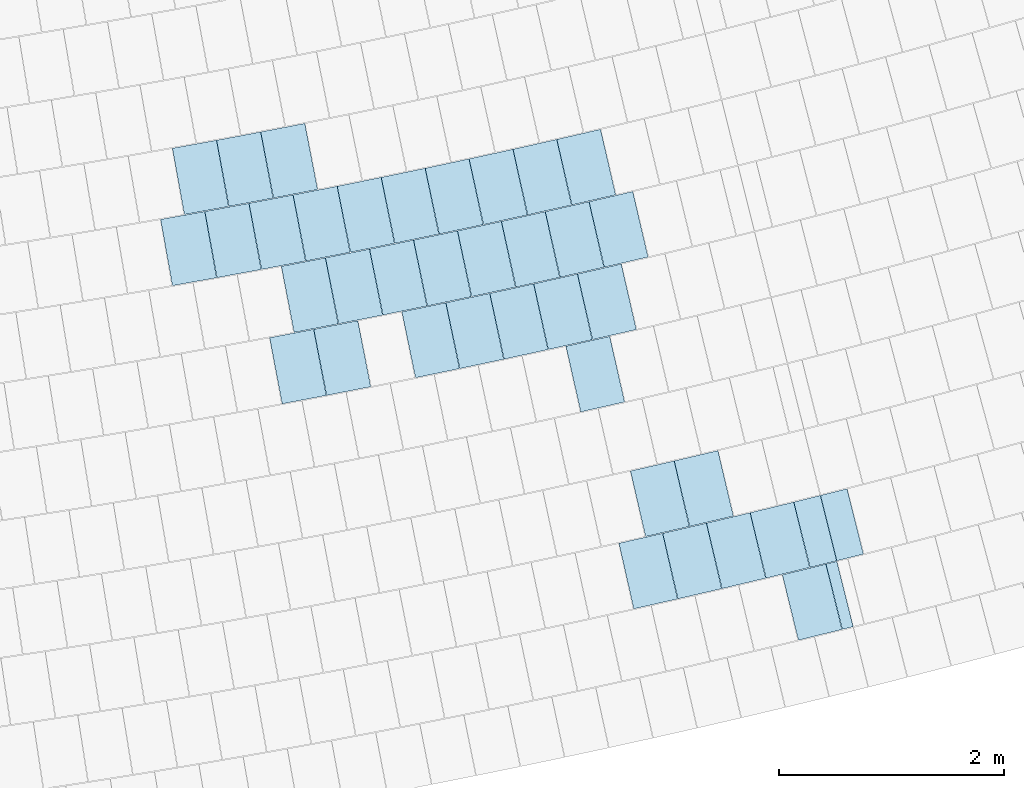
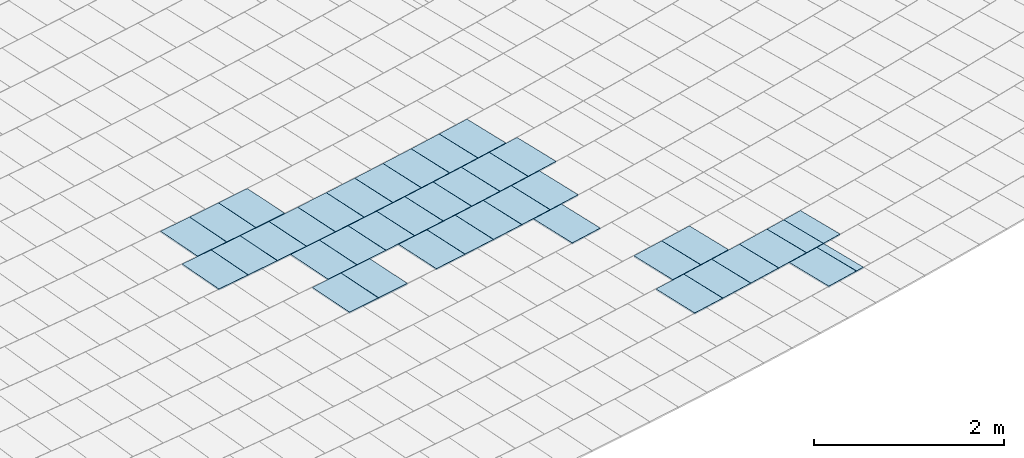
# One storey, part 30 of 438: 39 slabs.
"""IFC2X3 building model written with IfcOpenShell, lengths in millimetres."""

import ifcopenshell
import ifcopenshell.guid

model = None  # the IFC model being written
_history = None  # IfcOwnerHistory: only IFC2X3 demands one
_inside = {}  # id of a spatial element -> (the spatial element, [elements in it])
_under = {}  # id of a project, library or spatial element -> (it, [spatial elements below it])
_declared = {}  # id of a project -> (the project, [libraries it declares])
_typed = {}  # id of a type object -> (the type object, [elements of that type])
_made_of = {}  # id of a material, layer set ... -> (it, [elements and type objects made of it])


def new_model(schema):
    """Start an empty IFC model of exactly this schema.

    Asked for "IFC4X3", IfcOpenShell would pick the latest addendum, in which some entities
    have other attributes; the version numbers below select the first issue.
    IFC2X3 requires an IfcOwnerHistory on every rooted entity: one is made here for all.
    """
    global model, _history
    if schema == "IFC4X3":
        model = ifcopenshell.file(schema_version=(4, 3, 0, 0))
    else:
        model = ifcopenshell.file(schema=schema)
    _inside.clear()
    _under.clear()
    _declared.clear()
    _typed.clear()
    _made_of.clear()
    _history = None
    if model.schema == "IFC2X3":
        org = make("IfcOrganization", Name="unknown")
        user = make(
            "IfcPersonAndOrganization",
            ThePerson=make("IfcPerson", FamilyName="unknown"),
            TheOrganization=org,
        )
        app = make(
            "IfcApplication",
            ApplicationDeveloper=org,
            Version="unknown",
            ApplicationFullName="unknown",
            ApplicationIdentifier="unknown",
        )
        _history = make(
            "IfcOwnerHistory",
            OwningUser=user,
            OwningApplication=app,
            ChangeAction="ADDED",
            CreationDate=0,
        )
    return model


def make(cls, **values):
    """One entity of the class cls with the attributes given. An attribute that is None is left unset."""
    return model.create_entity(
        cls, **{name: value for name, value in values.items() if value is not None}
    )


def entity(cls, *values):
    """Any entity or typed value of the class cls, its attributes in the order of the schema. None: left unset."""
    e = model.create_entity(cls)
    for i, value in enumerate(values):
        if value is not None:
            e[i] = value
    return e


def rooted(cls, **values):
    """An entity with a GlobalId (a new one), such as an element, a storey or a relation."""
    return make(cls, GlobalId=ifcopenshell.guid.new(), OwnerHistory=_history, **values)


def si_unit(unit_type, name, prefix=None):
    """IfcSIUnit, for example si_unit("LENGTHUNIT", "METRE", prefix="MILLI")."""
    return make("IfcSIUnit", UnitType=unit_type, Prefix=prefix, Name=name)


def converted_unit(unit_type, name, factor, base, dimensions=None, offset=None):
    """IfcConversionBasedUnit, such as the inch: factor (a typed value) times the base unit."""
    return make(
        "IfcConversionBasedUnit"
        if offset is None
        else "IfcConversionBasedUnitWithOffset",
        ConversionOffset=offset,
        Dimensions=None
        if dimensions is None
        else entity("IfcDimensionalExponents", *dimensions),
        UnitType=unit_type,
        Name=name,
        ConversionFactor=make(
            "IfcMeasureWithUnit", ValueComponent=factor, UnitComponent=base
        ),
    )


def derived_unit(unit_type, elements):
    """IfcDerivedUnit: a product of units, each with its exponent."""
    return make(
        "IfcDerivedUnit",
        Elements=[
            make("IfcDerivedUnitElement", Unit=unit, Exponent=power)
            for unit, power in elements
        ],
        UnitType=unit_type,
    )


def assignment(units):
    """IfcUnitAssignment: the units of a project."""
    return None if units is None else make("IfcUnitAssignment", Units=units)


def point(xyz):
    """IfcCartesianPoint."""
    return None if xyz is None else make("IfcCartesianPoint", Coordinates=xyz)


def direction(xyz):
    """IfcDirection."""
    return None if xyz is None else make("IfcDirection", DirectionRatios=xyz)


def frame(location, z_axis=None, x_axis=None):
    """IfcAxis2Placement3D, a coordinate frame: its origin and axes. An axis left out is left unset."""
    return make(
        "IfcAxis2Placement3D",
        Location=point(location),
        Axis=direction(z_axis),
        RefDirection=direction(x_axis),
    )


def origin():
    """The frame at (0, 0, 0) with its axes left unset."""
    return frame((0.0, 0.0, 0.0))


def place(relative_to, where):
    """IfcLocalPlacement: puts the frame where relative to a parent placement (None: the world)."""
    return make(
        "IfcLocalPlacement", PlacementRelTo=relative_to, RelativePlacement=where
    )


def context(
    kind, dimensions, precision=None, world=None, true_north=None, identifier=None
):
    """IfcGeometricRepresentationContext, for example the 3D "Model" context."""
    return make(
        "IfcGeometricRepresentationContext",
        ContextIdentifier=identifier,
        ContextType=kind,
        CoordinateSpaceDimension=dimensions,
        Precision=precision,
        WorldCoordinateSystem=world,
        TrueNorth=true_north,
    )


def subcontext(parent, identifier, kind, view, scale=None):
    """IfcGeometricRepresentationSubContext, for example "Body" below "Model"."""
    return make(
        "IfcGeometricRepresentationSubContext",
        ContextIdentifier=identifier,
        ContextType=kind,
        ParentContext=parent,
        TargetScale=scale,
        TargetView=view,
    )


def project(units=None, contexts=None):
    """IfcProject with its units and contexts."""
    return rooted(
        "IfcProject",
        Name="project",
        RepresentationContexts=contexts,
        UnitsInContext=assignment(units),
    )


def spatial(cls, under=None, at=None, **own):
    """A site, building, storey or space (cls), placed at a placement, below another one or the project."""
    s = rooted(cls, ObjectPlacement=at, **own)
    if under is not None:
        _under.setdefault(under.id(), (under, []))[1].append(s)
    return s


def polyline(points):
    """IfcPolyline through the points."""
    return make("IfcPolyline", Points=[point(p) for p in points])


def outline(outer, holes=None, kind="AREA"):
    """IfcArbitraryClosedProfileDef: a profile drawn as a closed curve; with holes, ...WithVoids."""
    if holes is None:
        return make("IfcArbitraryClosedProfileDef", ProfileType=kind, OuterCurve=outer)
    return make(
        "IfcArbitraryProfileDefWithVoids",
        ProfileType=kind,
        OuterCurve=outer,
        InnerCurves=holes,
    )


def extrude(swept, where, along, depth):
    """IfcExtrudedAreaSolid: the profile swept, set in the frame where, extruded along a direction by depth."""
    return make(
        "IfcExtrudedAreaSolid",
        SweptArea=swept,
        Position=where,
        ExtrudedDirection=direction(along),
        Depth=depth,
    )


def shape(context_of_items, identifier, shape_type, items):
    """IfcShapeRepresentation: the items that make up one representation, for example the "Body"."""
    return make(
        "IfcShapeRepresentation",
        ContextOfItems=context_of_items,
        RepresentationIdentifier=identifier,
        RepresentationType=shape_type,
        Items=items,
    )


def material(Name=None, Category=None):
    """IfcMaterial."""
    return make("IfcMaterial", Name=Name, Category=Category)


def layer(
    of_material, thickness, ventilated=None, Name=None, Category=None, Priority=None
):
    """IfcMaterialLayer: one layer of a wall or slab, of a material (None: an air gap)."""
    return make(
        "IfcMaterialLayer",
        Material=of_material,
        LayerThickness=thickness,
        IsVentilated=ventilated,
        Name=Name,
        Category=Category,
        Priority=Priority,
    )


def layer_set(layers, Name=None):
    """IfcMaterialLayerSet."""
    return make("IfcMaterialLayerSet", MaterialLayers=layers, LayerSetName=Name)


def layer_usage(for_layer_set, set_direction, sense, offset, extent=None):
    """IfcMaterialLayerSetUsage: how a layer set lies in its element."""
    return make(
        "IfcMaterialLayerSetUsage",
        ForLayerSet=for_layer_set,
        LayerSetDirection=set_direction,
        DirectionSense=sense,
        OffsetFromReferenceLine=offset,
        ReferenceExtent=extent,
    )


def made_of(thing, what):
    """Note that an element or type object is made of a material, layer set ...; save() writes the relation."""
    if what is not None:
        _made_of.setdefault(what.id(), (what, []))[1].append(thing)
    return thing


def type_object(cls, material=None, **own):
    """A type object (cls), such as IfcWallType, which elements share."""
    return made_of(rooted(cls, **own), material)


def element(
    cls,
    number,
    at=None,
    inside=None,
    cuts=None,
    type_object=None,
    material=None,
    context=None,
    identifier="Body",
    shape_type=None,
    held_by="IfcProductDefinitionShape",
    body=None,
    shapes=None,
    **own,
):
    """One element of the class cls, such as IfcWall. Its Tag is "e" and its number.

    at: its placement. inside: the storey or other place that contains it. cuts: it is an
    opening in that element (IfcRelVoidsElement). A single representation is given by context,
    identifier, shape_type and body (its items); several are given by shapes. held_by: the class
    of the entity that holds the representations. save() writes the other relations.
    """
    e = rooted(cls, Tag="e%d" % number, ObjectPlacement=at, **own)
    if body is not None:
        shapes = [shape(context, identifier, shape_type, body)]
    if shapes is not None:
        e.Representation = make(held_by, Representations=shapes)
    if inside is not None:
        _inside.setdefault(inside.id(), (inside, []))[1].append(e)
    if cuts is not None:
        rooted(
            "IfcRelVoidsElement", RelatingBuildingElement=cuts, RelatedOpeningElement=e
        )
    if type_object is not None:
        _typed.setdefault(type_object.id(), (type_object, []))[1].append(e)
    return made_of(e, material)


def aggregate(whole, parts):
    """IfcRelAggregates: a whole, such as a stair, and the parts it consists of."""
    return rooted("IfcRelAggregates", RelatingObject=whole, RelatedObjects=parts)


def save(model, path):
    """Write the relations noted so far, then the file.

    IfcRelAggregates (storeys below a building ...), IfcRelContainedInSpatialStructure (elements
    in a storey), IfcRelDefinesByType, IfcRelAssociatesMaterial and IfcRelDeclares: one each for
    every whole, place, type object, material and project.
    """
    for whole, parts in _under.values():
        aggregate(whole, parts)
    for where, things in _inside.values():
        rooted(
            "IfcRelContainedInSpatialStructure",
            RelatedElements=things,
            RelatingStructure=where,
        )
    for kind, things in _typed.values():
        rooted("IfcRelDefinesByType", RelatedObjects=things, RelatingType=kind)
    for what, things in _made_of.values():
        rooted("IfcRelAssociatesMaterial", RelatedObjects=things, RelatingMaterial=what)
    for by, libraries in _declared.values():
        rooted("IfcRelDeclares", RelatingContext=by, RelatedDefinitions=libraries)
    model.write(path)


model = new_model("IFC2X3")

# Units and contexts
model_context = context("Model", 3, precision=0.01, world=origin(), true_north=direction((6.123031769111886e-17, 1.0)))
body_context = subcontext(model_context, "Body", "Model", "MODEL_VIEW")
ifc_project = project(units=[si_unit("LENGTHUNIT", "METRE", prefix="MILLI"), si_unit("AREAUNIT", "SQUARE_METRE"), si_unit("VOLUMEUNIT", "CUBIC_METRE"), converted_unit("PLANEANGLEUNIT", "DEGREE", entity("IfcRatioMeasure", 0.017453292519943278), si_unit("PLANEANGLEUNIT", "RADIAN"), dimensions=[0, 0, 0, 0, 0, 0, 0]), si_unit("MASSUNIT", "GRAM", prefix="KILO"), derived_unit("MASSDENSITYUNIT", [(si_unit("MASSUNIT", "GRAM", prefix="KILO"), 1), (si_unit("LENGTHUNIT", "METRE"), -3)]), derived_unit("MOMENTOFINERTIAUNIT", [(si_unit("LENGTHUNIT", "METRE"), 4)]), si_unit("TIMEUNIT", "SECOND"), si_unit("FREQUENCYUNIT", "HERTZ"), si_unit("THERMODYNAMICTEMPERATUREUNIT", "DEGREE_CELSIUS"), derived_unit("THERMALTRANSMITTANCEUNIT", [(si_unit("MASSUNIT", "GRAM", prefix="KILO"), 1), (si_unit("THERMODYNAMICTEMPERATUREUNIT", "KELVIN"), -1), (si_unit("TIMEUNIT", "SECOND"), -3)]), derived_unit("THERMALCONDUCTANCEUNIT", [(si_unit("MASSUNIT", "GRAM", prefix="KILO"), 1), (si_unit("LENGTHUNIT", "METRE"), 1), (si_unit("THERMODYNAMICTEMPERATUREUNIT", "KELVIN"), -1), (si_unit("TIMEUNIT", "SECOND"), -3)]), derived_unit("VOLUMETRICFLOWRATEUNIT", [(si_unit("LENGTHUNIT", "METRE"), 3), (si_unit("TIMEUNIT", "SECOND"), -1)]), derived_unit("MASSFLOWRATEUNIT", [(si_unit("MASSUNIT", "GRAM", prefix="KILO"), 1), (si_unit("TIMEUNIT", "SECOND"), -1)]), derived_unit("ROTATIONALFREQUENCYUNIT", [(si_unit("TIMEUNIT", "SECOND"), -1)]), si_unit("ELECTRICCURRENTUNIT", "AMPERE"), si_unit("ELECTRICVOLTAGEUNIT", "VOLT"), si_unit("POWERUNIT", "WATT"), converted_unit("FORCEUNIT", "KIP", entity("IfcRatioMeasure", 2.088543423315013e-05), si_unit("FORCEUNIT", "NEWTON"), dimensions=[1, 1, -2, 0, 0, 0, 0]), si_unit("ILLUMINANCEUNIT", "LUX"), si_unit("LUMINOUSFLUXUNIT", "LUMEN"), si_unit("LUMINOUSINTENSITYUNIT", "CANDELA"), derived_unit("USERDEFINED", [(si_unit("MASSUNIT", "GRAM", prefix="KILO"), -1), (si_unit("LENGTHUNIT", "METRE"), -2), (si_unit("TIMEUNIT", "SECOND"), 3), (si_unit("LUMINOUSFLUXUNIT", "LUMEN"), 1)]), derived_unit("USERDEFINED", [(si_unit("MASSUNIT", "GRAM", prefix="KILO"), 1), (si_unit("LENGTHUNIT", "METRE"), 3), (si_unit("TIMEUNIT", "SECOND"), -3), (si_unit("ELECTRICCURRENTUNIT", "AMPERE"), -2)]), derived_unit("USERDEFINED", [(si_unit("LENGTHUNIT", "METRE"), 2), (si_unit("TIMEUNIT", "SECOND"), -2)]), derived_unit("SOUNDPOWERUNIT", [(si_unit("MASSUNIT", "GRAM", prefix="KILO"), 1), (si_unit("LENGTHUNIT", "METRE"), 2), (si_unit("TIMEUNIT", "SECOND"), -3)]), derived_unit("SOUNDPRESSUREUNIT", [(si_unit("MASSUNIT", "GRAM", prefix="KILO"), 1), (si_unit("LENGTHUNIT", "METRE"), -1), (si_unit("TIMEUNIT", "SECOND"), -2)]), derived_unit("LINEARVELOCITYUNIT", [(si_unit("LENGTHUNIT", "METRE"), 1), (si_unit("TIMEUNIT", "SECOND"), -1)]), si_unit("PRESSUREUNIT", "PASCAL"), derived_unit("USERDEFINED", [(si_unit("LENGTHUNIT", "METRE"), -2), (si_unit("MASSUNIT", "GRAM", prefix="KILO"), 1), (si_unit("TIMEUNIT", "SECOND"), -2)]), derived_unit("LINEARFORCEUNIT", [(si_unit("MASSUNIT", "GRAM", prefix="KILO"), 1), (si_unit("LENGTHUNIT", "METRE"), 1), (si_unit("TIMEUNIT", "SECOND"), -2), (si_unit("LENGTHUNIT", "METRE"), -1)]), derived_unit("PLANARFORCEUNIT", [(si_unit("MASSUNIT", "GRAM", prefix="KILO"), 1), (si_unit("LENGTHUNIT", "METRE"), 1), (si_unit("TIMEUNIT", "SECOND"), -2), (si_unit("LENGTHUNIT", "METRE"), -2)]), derived_unit("SPECIFICHEATCAPACITYUNIT", [(si_unit("LENGTHUNIT", "METRE"), 2), (si_unit("TIMEUNIT", "SECOND"), -2), (si_unit("THERMODYNAMICTEMPERATUREUNIT", "KELVIN"), -1)]), derived_unit("VAPORPERMEABILITYUNIT", [(si_unit("TIMEUNIT", "SECOND"), 1), (si_unit("LENGTHUNIT", "METRE"), -1)]), derived_unit("DYNAMICVISCOSITYUNIT", [(si_unit("MASSUNIT", "GRAM", prefix="KILO"), 1), (si_unit("LENGTHUNIT", "METRE"), -1), (si_unit("TIMEUNIT", "SECOND"), -1)]), derived_unit("THERMALEXPANSIONCOEFFICIENTUNIT", [(si_unit("THERMODYNAMICTEMPERATUREUNIT", "KELVIN"), -1)])], contexts=[model_context])

# Site, building, storey
site_placement = place(None, frame((0.0, 0.0, 0.0), z_axis=(0.0, 0.0, 1.0), x_axis=(0.8191520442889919, 0.5735764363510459, 0.0)))
site = spatial("IfcSite", under=ifc_project, at=site_placement, Name="Default", CompositionType="ELEMENT")
building_placement = place(site_placement, origin())
building = spatial("IfcBuilding", under=site, at=building_placement, CompositionType="ELEMENT")
storey_placement = place(building_placement, origin())
storey = spatial("IfcBuildingStorey", under=building, at=storey_placement, Name="PLAN", CompositionType="ELEMENT", Elevation=0.0)

# Slabs
ifc_material = material(Name="Paint-01")
ifc_layer = layer(ifc_material, 20.00000000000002)
ifc_layer_set = layer_set([ifc_layer], Name="Floor:Slab-179:1000")
ifc_layer_usage = layer_usage(ifc_layer_set, "AXIS3", "POSITIVE", 0.0)
slab_type = type_object("IfcSlabType", Name="Floor:Slab-179:1000", PredefinedType="FLOOR", material=ifc_layer_set)
slab_1_placement = place(storey_placement, origin())
element("IfcSlab", 1, at=slab_1_placement, inside=storey, type_object=slab_type, material=ifc_layer_usage, Name="Floor:Slab-179:1000", ObjectType="Floor:Slab-179:1000", PredefinedType="FLOOR", context=body_context, shape_type="SweptSolid", body=[
    extrude(outline(polyline([(-300.0, -49.850214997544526), (300.0, -49.85021499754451), (300.0, 49.850214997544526), (-300.0, 49.850214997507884), (-300.0, -49.850214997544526)])), frame((-67979.28074489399, -139964.63885479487, 20.0), z_axis=(0.0, 0.0, -1.0), x_axis=(-0.3566905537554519, -0.934222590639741, 0.0)), (0.0, 0.0, 1.0), 20.00000000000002),
])
slab_2_placement = place(storey_placement, origin())
element("IfcSlab", 2, at=slab_2_placement, inside=storey, type_object=slab_type, material=ifc_layer_usage, Name="Floor:Slab-179:1000", ObjectType="Floor:Slab-179:1000", PredefinedType="FLOOR", context=body_context, shape_type="SweptSolid", body=[
    extrude(outline(polyline([(-299.99999893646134, -200.00000294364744), (300.000001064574, -200.00000294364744), (299.9999989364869, 200.0000029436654), (-300.00000106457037, 200.00000294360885), (-299.99999893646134, -200.00000294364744)])), frame((-68213.78000768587, -139873.98724154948, 20.0), z_axis=(0.0, 0.0, -1.0), x_axis=(-0.36154858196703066, -0.9323532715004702, 0.0)), (0.0, 0.0, 1.0), 20.000000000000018),
])
slab_3_placement = place(storey_placement, origin())
element("IfcSlab", 3, at=slab_3_placement, inside=storey, type_object=slab_type, material=ifc_layer_usage, Name="Floor:Slab-179:1000", ObjectType="Floor:Slab-179:1000", PredefinedType="FLOOR", context=body_context, shape_type="SweptSolid", body=[
    extrude(outline(polyline([(-299.999999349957, -122.28774446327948), (300.00000065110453, -122.28774446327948), (299.999999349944, 122.28774446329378), (-300.00000065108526, 122.28774446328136), (-299.999999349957, -122.28774446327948)])), frame((-67830.12401966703, -139373.68920126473, 20.0), z_axis=(0.0, 0.0, -1.0), x_axis=(-0.35844605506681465, -0.9335504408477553, 0.0)), (0.0, 0.0, 1.0), 20.000000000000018),
])
slab_4_placement = place(storey_placement, origin())
element("IfcSlab", 4, at=slab_4_placement, inside=storey, type_object=slab_type, material=ifc_layer_usage, Name="Floor:Slab-179:1000", ObjectType="Floor:Slab-179:1000", PredefinedType="FLOOR", context=body_context, shape_type="SweptSolid", body=[
    extrude(outline(polyline([(-299.999998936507, -200.00000294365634), (300.0000010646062, -200.00000294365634), (299.99999893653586, 200.00000294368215), (-300.00000106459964, 200.00000294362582), (-299.999998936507, -200.00000294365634)])), frame((-68505.82897014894, -139109.7318481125, 20.0), z_axis=(0.0, 0.0, -1.0), x_axis=(-0.36822203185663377, -0.9297378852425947, 0.0)), (0.0, 0.0, 1.0), 20.00000000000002),
])
slab_5_placement = place(storey_placement, origin())
element("IfcSlab", 5, at=slab_5_placement, inside=storey, type_object=slab_type, material=ifc_layer_usage, Name="Floor:Slab-179:1000", ObjectType="Floor:Slab-179:1000", PredefinedType="FLOOR", context=body_context, shape_type="SweptSolid", body=[
    extrude(outline(polyline([(-299.99999893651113, -200.0000029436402), (300.00000106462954, -200.00000294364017), (299.999998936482, 200.00000294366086), (-300.0000010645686, 200.00000294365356), (-299.99999893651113, -200.0000029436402)])), frame((-68132.08509418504, -139256.61979560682, 20.0), z_axis=(0.0, 0.0, -1.0), x_axis=(-0.3633390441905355, -0.9316569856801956, 0.0)), (0.0, 0.0, 1.0), 20.00000000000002),
])
slab_6_placement = place(storey_placement, origin())
element("IfcSlab", 6, at=slab_6_placement, inside=storey, type_object=slab_type, material=ifc_layer_usage, Name="Floor:Slab-179:1000", ObjectType="Floor:Slab-179:1000", PredefinedType="FLOOR", context=body_context, shape_type="SweptSolid", body=[
    extrude(outline(polyline([(-299.9999989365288, -200.00000294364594), (300.0000010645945, -200.00000294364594), (299.99999893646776, 200.00000294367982), (-300.0000010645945, 200.00000294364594), (-299.9999989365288, -200.00000294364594)])), frame((-68878.79704667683, -138960.88505496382, 20.0), z_axis=(0.0, 0.0, -1.0), x_axis=(-0.3730948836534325, -0.9277931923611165, 0.0)), (0.0, 0.0, 1.0), 20.000000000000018),
])
slab_7_placement = place(storey_placement, origin())
element("IfcSlab", 7, at=slab_7_placement, inside=storey, type_object=slab_type, material=ifc_layer_usage, Name="Floor:Slab-179:1000", ObjectType="Floor:Slab-179:1000", PredefinedType="FLOOR", context=body_context, shape_type="SweptSolid", body=[
    extrude(outline(polyline([(-299.99999893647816, -200.00000294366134), (300.00000106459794, -200.0000029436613), (299.9999989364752, 200.0000029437), (-300.000001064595, 200.00000294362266), (-299.99999893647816, -200.00000294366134)])), frame((-69250.97905725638, -138810.08351339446, 20.0), z_axis=(0.0, 0.0, -1.0), x_axis=(-0.377957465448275, -0.9258229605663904, 0.0)), (0.0, 0.0, 1.0), 20.00000000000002),
])
slab_8_placement = place(storey_placement, origin())
element("IfcSlab", 8, at=slab_8_placement, inside=storey, type_object=slab_type, material=ifc_layer_usage, Name="Floor:Slab-179:1000", ObjectType="Floor:Slab-179:1000", PredefinedType="FLOOR", context=body_context, shape_type="SweptSolid", body=[
    extrude(outline(polyline([(-299.99999893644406, -200.0000029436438), (300.0000010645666, -200.0000029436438), (299.9999989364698, 200.00000294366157), (-300.0000010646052, 200.00000294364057), (-299.99999893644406, -200.0000029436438)])), frame((-68423.75953880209, -138491.35201868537, 20.0), z_axis=(0.0, 0.0, -1.0), x_axis=(-0.37007499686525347, -0.9290018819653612, 0.0)), (0.0, 0.0, 1.0), 20.000000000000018),
])
slab_9_placement = place(storey_placement, origin())
element("IfcSlab", 9, at=slab_9_placement, inside=storey, type_object=slab_type, material=ifc_layer_usage, Name="Floor:Slab-179:1000", ObjectType="Floor:Slab-179:1000", PredefinedType="FLOOR", context=body_context, shape_type="SweptSolid", body=[
    extrude(outline(polyline([(-299.9999989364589, -200.00000294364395), (300.0000010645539, -200.00000294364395), (299.9999989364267, 200.00000294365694), (-300.0000010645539, 200.00000294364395), (-299.9999989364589, -200.00000294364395)])), frame((-68796.43862988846, -138341.74940164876, 20.0), z_axis=(0.0, 0.0, -1.0), x_axis=(-0.37498286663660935, -0.9270317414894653, 0.0)), (0.0, 0.0, 1.0), 20.00000000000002),
])
slab_10_placement = place(storey_placement, origin())
element("IfcSlab", 10, at=slab_10_placement, inside=storey, type_object=slab_type, material=ifc_layer_usage, Name="Floor:Slab-179:1000", ObjectType="Floor:Slab-179:1000", PredefinedType="FLOOR", context=body_context, shape_type="SweptSolid", body=[
    extrude(outline(polyline([(-299.99999893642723, -200.00000294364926), (300.00000106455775, -200.00000294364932), (299.99999893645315, 200.00000294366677), (-300.0000010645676, 200.00000294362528), (-299.99999893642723, -200.00000294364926)])), frame((-68631.38608178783, -137102.5706216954, 20.0), z_axis=(0.0, 0.0, -1.0), x_axis=(-0.37884605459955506, -0.925459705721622, 0.0)), (0.0, 0.0, 1.0), 20.00000000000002),
])
slab_11_placement = place(storey_placement, origin())
element("IfcSlab", 11, at=slab_11_placement, inside=storey, type_object=slab_type, material=ifc_layer_usage, Name="Floor:Slab-179:1000", ObjectType="Floor:Slab-179:1000", PredefinedType="FLOOR", context=body_context, shape_type="SweptSolid", body=[
    extrude(outline(polyline([(-299.9999989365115, -200.00000294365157), (300.0000010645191, -200.00000294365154), (299.9999989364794, 200.00000294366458), (-300.00000106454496, 200.00000294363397), (-299.9999989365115, -200.00000294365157)])), frame((-68176.91114380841, -136634.45393498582, 20.0), z_axis=(0.0, 0.0, -1.0), x_axis=(-0.3758067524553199, -0.9266980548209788, 0.0)), (0.0, 0.0, 1.0), 20.00000000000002),
])
slab_12_placement = place(storey_placement, origin())
element("IfcSlab", 12, at=slab_12_placement, inside=storey, type_object=slab_type, material=ifc_layer_usage, Name="Floor:Slab-179:1000", ObjectType="Floor:Slab-179:1000", PredefinedType="FLOOR", context=body_context, shape_type="SweptSolid", body=[
    extrude(outline(polyline([(-299.99999893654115, -200.0000029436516), (300.00000106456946, -200.0000029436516), (299.9999989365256, 200.00000294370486), (-300.0000010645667, 200.00000294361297), (-299.99999893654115, -200.0000029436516)])), frame((-68548.68513680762, -136482.5130848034, 20.0), z_axis=(0.0, 0.0, -1.0), x_axis=(-0.3808225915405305, -0.9246481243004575, 0.0)), (0.0, 0.0, 1.0), 20.00000000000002),
])
slab_13_placement = place(storey_placement, origin())
element("IfcSlab", 13, at=slab_13_placement, inside=storey, type_object=slab_type, material=ifc_layer_usage, Name="Floor:Slab-179:1000", ObjectType="Floor:Slab-179:1000", PredefinedType="FLOOR", context=body_context, shape_type="SweptSolid", body=[
    extrude(outline(polyline([(-299.999998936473, -200.0000029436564), (300.00000106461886, -200.00000294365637), (299.99999893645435, 200.00000294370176), (-300.00000106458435, 200.00000294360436), (-299.999998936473, -200.0000029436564)])), frame((-68919.63037351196, -136328.5599906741, 20.0), z_axis=(0.0, 0.0, -1.0), x_axis=(-0.3858272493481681, -0.9225710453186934, 0.0)), (0.0, 0.0, 1.0), 20.000000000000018),
])
slab_14_placement = place(storey_placement, origin())
element("IfcSlab", 14, at=slab_14_placement, inside=storey, type_object=slab_type, material=ifc_layer_usage, Name="Floor:Slab-179:1000", ObjectType="Floor:Slab-179:1000", PredefinedType="FLOOR", context=body_context, shape_type="SweptSolid", body=[
    extrude(outline(polyline([(-299.99999893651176, -200.0000029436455), (300.0000010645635, -200.0000029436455), (299.9999989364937, 200.00000294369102), (-300.0000010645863, 200.00000294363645), (-299.99999893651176, -200.0000029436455)])), frame((-69658.99103760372, -136014.63521030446, 20.0), z_axis=(0.0, 0.0, -1.0), x_axis=(-0.39580243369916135, -0.9183356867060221, 0.0)), (0.0, 0.0, 1.0), 20.00000000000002),
])
slab_15_placement = place(storey_placement, origin())
element("IfcSlab", 15, at=slab_15_placement, inside=storey, type_object=slab_type, material=ifc_layer_usage, Name="Floor:Slab-179:1000", ObjectType="Floor:Slab-179:1000", PredefinedType="FLOOR", context=body_context, shape_type="SweptSolid", body=[
    extrude(outline(polyline([(-299.99999893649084, -200.0000029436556), (300.00000106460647, -200.00000294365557), (299.99999893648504, 200.0000029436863), (-300.0000010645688, 200.00000294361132), (-299.99999893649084, -200.0000029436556)])), frame((-69289.73596264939, -136172.59917279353, 20.0), z_axis=(0.0, 0.0, -1.0), x_axis=(-0.39082057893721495, -0.9204668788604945, 0.0)), (0.0, 0.0, 1.0), 20.00000000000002),
])
slab_16_placement = place(storey_placement, origin())
element("IfcSlab", 16, at=slab_16_placement, inside=storey, type_object=slab_type, material=ifc_layer_usage, Name="Floor:Slab-179:1000", ObjectType="Floor:Slab-179:1000", PredefinedType="FLOOR", context=body_context, shape_type="SweptSolid", body=[
    extrude(outline(polyline([(-299.99999893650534, -200.00000294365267), (300.000001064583, -200.00000294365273), (299.99999893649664, 200.00000294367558), (-300.00000106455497, 200.0000029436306), (-299.99999893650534, -200.00000294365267)])), frame((-70761.54488768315, -135528.77112801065, 20.0), z_axis=(0.0, 0.0, -1.0), x_axis=(-0.4106776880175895, -0.9117805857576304, 0.0)), (0.0, 0.0, 1.0), 20.000000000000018),
])
slab_17_placement = place(storey_placement, origin())
element("IfcSlab", 17, at=slab_17_placement, inside=storey, type_object=slab_type, material=ifc_layer_usage, Name="Floor:Slab-179:1000", ObjectType="Floor:Slab-179:1000", PredefinedType="FLOOR", context=body_context, shape_type="SweptSolid", body=[
    extrude(outline(polyline([(-299.99999893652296, -200.00000294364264), (300.0000010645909, -200.0000029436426), (299.99999893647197, 200.0000029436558), (-300.00000106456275, 200.00000294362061), (-299.99999893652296, -200.00000294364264)])), frame((-70394.90630367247, -135692.7164620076, 20.0), z_axis=(0.0, 0.0, -1.0), x_axis=(-0.40573113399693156, -0.913992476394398, 0.0)), (0.0, 0.0, 1.0), 20.00000000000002),
])
slab_18_placement = place(storey_placement, origin())
element("IfcSlab", 18, at=slab_18_placement, inside=storey, type_object=slab_type, material=ifc_layer_usage, Name="Floor:Slab-179:1000", ObjectType="Floor:Slab-179:1000", PredefinedType="FLOOR", context=body_context, shape_type="SweptSolid", body=[
    extrude(outline(polyline([(-299.99999893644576, -200.00000294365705), (300.00000106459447, -200.00000294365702), (299.9999989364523, 200.00000294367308), (-300.0000010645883, 200.0000029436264), (-299.99999893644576, -200.00000294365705)])), frame((-68094.40405522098, -136014.8782229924, 20.0), z_axis=(0.0, 0.0, -1.0), x_axis=(-0.3777771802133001, -0.9258965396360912, 0.0)), (0.0, 0.0, 1.0), 20.000000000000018),
])
slab_19_placement = place(storey_placement, origin())
element("IfcSlab", 19, at=slab_19_placement, inside=storey, type_object=slab_type, material=ifc_layer_usage, Name="Floor:Slab-179:1000", ObjectType="Floor:Slab-179:1000", PredefinedType="FLOOR", context=body_context, shape_type="SweptSolid", body=[
    extrude(outline(polyline([(-299.9999989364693, -200.0000029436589), (300.00000106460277, -200.0000029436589), (299.9999989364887, 200.00000294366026), (-300.00000106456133, 200.000002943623), (-299.9999989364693, -200.0000029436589)])), frame((-68465.86297883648, -135862.13346152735, 20.0), z_axis=(0.0, 0.0, -1.0), x_axis=(-0.3828300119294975, -0.9238188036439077, 0.0)), (0.0, 0.0, 1.0), 20.00000000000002),
])
slab_20_placement = place(storey_placement, origin())
element("IfcSlab", 20, at=slab_20_placement, inside=storey, type_object=slab_type, material=ifc_layer_usage, Name="Floor:Slab-179:1000", ObjectType="Floor:Slab-179:1000", PredefinedType="FLOOR", context=body_context, shape_type="SweptSolid", body=[
    extrude(outline(polyline([(-299.9999989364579, -200.00000294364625), (300.000001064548, -200.00000294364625), (299.9999989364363, 200.00000294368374), (-300.0000010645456, 200.0000029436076), (-299.9999989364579, -200.00000294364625)])), frame((-69206.24965196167, -135550.56719933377, 20.0), z_axis=(0.0, 0.0, -1.0), x_axis=(-0.3929012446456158, -0.9195806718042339, 0.0)), (0.0, 0.0, 1.0), 20.000000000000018),
])
slab_21_placement = place(storey_placement, origin())
element("IfcSlab", 21, at=slab_21_placement, inside=storey, type_object=slab_type, material=ifc_layer_usage, Name="Floor:Slab-179:1000", ObjectType="Floor:Slab-179:1000", PredefinedType="FLOOR", context=body_context, shape_type="SweptSolid", body=[
    extrude(outline(polyline([(-299.9999989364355, -200.00000294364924), (300.00000106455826, -200.00000294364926), (299.99999893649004, 200.00000294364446), (-300.0000010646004, 200.0000029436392), (-299.9999989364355, -200.00000294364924)])), frame((-69575.15530233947, -135391.7549982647, 20.0), z_axis=(0.0, 0.0, -1.0), x_axis=(-0.39791934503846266, -0.9174204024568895, 0.0)), (0.0, 0.0, 1.0), 20.00000000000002),
])
slab_22_placement = place(storey_placement, origin())
element("IfcSlab", 22, at=slab_22_placement, inside=storey, type_object=slab_type, material=ifc_layer_usage, Name="Floor:Slab-179:1000", ObjectType="Floor:Slab-179:1000", PredefinedType="FLOOR", context=body_context, shape_type="SweptSolid", body=[
    extrude(outline(polyline([(-299.9999989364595, -200.00000294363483), (300.00000106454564, -200.0000029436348), (299.9999989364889, 200.00000294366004), (-300.0000010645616, 200.0000029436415), (-299.9999989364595, -200.00000294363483)])), frame((-68836.48186517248, -135707.3615804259, 20.0), z_axis=(0.0, 0.0, -1.0), x_axis=(-0.38787141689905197, -0.9217134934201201, 0.0)), (0.0, 0.0, 1.0), 20.00000000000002),
])
slab_23_placement = place(storey_placement, origin())
element("IfcSlab", 23, at=slab_23_placement, inside=storey, type_object=slab_type, material=ifc_layer_usage, Name="Floor:Slab-179:1000", ObjectType="Floor:Slab-179:1000", PredefinedType="FLOOR", context=body_context, shape_type="SweptSolid", body=[
    extrude(outline(polyline([(-299.999998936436, -200.0000029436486), (300.0000010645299, -200.00000294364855), (299.9999989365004, 200.00000294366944), (-300.0000010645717, 200.00000294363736), (-299.999998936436, -200.0000029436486)])), frame((-67722.11618166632, -136165.59130568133, 20.0), z_axis=(0.0, 0.0, -1.0), x_axis=(-0.37271307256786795, -0.9279466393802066, 0.0)), (0.0, 0.0, 1.0), 20.00000000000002),
])
slab_24_placement = place(storey_placement, origin())
element("IfcSlab", 24, at=slab_24_placement, inside=storey, type_object=slab_type, material=ifc_layer_usage, Name="Floor:Slab-179:1000", ObjectType="Floor:Slab-179:1000", PredefinedType="FLOOR", context=body_context, shape_type="SweptSolid", body=[
    extrude(outline(polyline([(-299.9999989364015, -200.0000029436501), (300.00000106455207, -200.00000294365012), (299.9999989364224, 200.00000294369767), (-300.00000106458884, 200.0000029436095), (-299.9999989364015, -200.0000029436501)])), frame((-69943.18780517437, -135230.92971746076, 20.0), z_axis=(0.0, 0.0, -1.0), x_axis=(-0.4029255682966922, -0.9152327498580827, 0.0)), (0.0, 0.0, 1.0), 20.00000000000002),
])
slab_25_placement = place(storey_placement, origin())
element("IfcSlab", 25, at=slab_25_placement, inside=storey, type_object=slab_type, material=ifc_layer_usage, Name="Floor:Slab-179:1000", ObjectType="Floor:Slab-179:1000", PredefinedType="FLOOR", context=body_context, shape_type="SweptSolid", body=[
    extrude(outline(polyline([(-299.9999989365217, -200.0000029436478), (300.00000106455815, -200.00000294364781), (299.999998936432, 200.00000294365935), (-300.00000106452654, 200.00000294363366), (-299.9999989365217, -200.0000029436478)])), frame((-70310.33617539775, -135068.09615724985, 20.0), z_axis=(0.0, 0.0, -1.0), x_axis=(-0.40791976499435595, -0.9130177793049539, 0.0)), (0.0, 0.0, 1.0), 20.00000000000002),
])
slab_26_placement = place(storey_placement, origin())
element("IfcSlab", 26, at=slab_26_placement, inside=storey, type_object=slab_type, material=ifc_layer_usage, Name="Floor:Slab-179:1000", ObjectType="Floor:Slab-179:1000", PredefinedType="FLOOR", context=body_context, shape_type="SweptSolid", body=[
    extrude(outline(polyline([(-299.9999989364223, -200.00000294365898), (300.0000010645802, -200.000002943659), (299.9999989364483, 200.0000029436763), (-300.0000010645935, 200.00000294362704), (-299.9999989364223, -200.00000294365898)])), frame((-68382.91585645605, -135241.4239607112, 20.0), z_axis=(0.0, 0.0, -1.0), x_axis=(-0.38486903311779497, -0.9229711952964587, 0.0)), (0.0, 0.0, 1.0), 20.000000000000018),
])
slab_27_placement = place(storey_placement, origin())
element("IfcSlab", 27, at=slab_27_placement, inside=storey, type_object=slab_type, material=ifc_layer_usage, Name="Floor:Slab-179:1000", ObjectType="Floor:Slab-179:1000", PredefinedType="FLOOR", context=body_context, shape_type="SweptSolid", body=[
    extrude(outline(polyline([(-299.99999893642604, -200.00000294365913), (300.00000106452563, -200.00000294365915), (299.9999989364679, 200.0000029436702), (-300.0000010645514, 200.00000294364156), (-299.99999893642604, -200.00000294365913)])), frame((-67639.80189941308, -135546.4998974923, 20.0), z_axis=(0.0, 0.0, -1.0), x_axis=(-0.37467682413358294, -0.9271554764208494, 0.0)), (0.0, 0.0, 1.0), 20.00000000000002),
])
slab_28_placement = place(storey_placement, origin())
element("IfcSlab", 28, at=slab_28_placement, inside=storey, type_object=slab_type, material=ifc_layer_usage, Name="Floor:Slab-179:1000", ObjectType="Floor:Slab-179:1000", PredefinedType="FLOOR", context=body_context, shape_type="SweptSolid", body=[
    extrude(outline(polyline([(-299.9999989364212, -200.00000294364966), (300.0000010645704, -200.00000294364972), (299.999998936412, 200.00000294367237), (-300.00000106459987, 200.00000294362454), (-299.9999989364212, -200.00000294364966)])), frame((-68753.20110111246, -135085.8203565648, 20.0), z_axis=(0.0, 0.0, -1.0), x_axis=(-0.38994769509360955, -0.920837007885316, 0.0)), (0.0, 0.0, 1.0), 20.00000000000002),
])
slab_29_placement = place(storey_placement, origin())
element("IfcSlab", 29, at=slab_29_placement, inside=storey, type_object=slab_type, material=ifc_layer_usage, Name="Floor:Slab-179:1000", ObjectType="Floor:Slab-179:1000", PredefinedType="FLOOR", context=body_context, shape_type="SweptSolid", body=[
    extrude(outline(polyline([(-299.9999989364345, -200.00000294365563), (300.00000106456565, -200.00000294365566), (299.999998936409, 200.00000294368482), (-300.00000106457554, 200.00000294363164), (-299.9999989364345, -200.00000294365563)])), frame((-68011.77903485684, -135394.98536109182, 20.0), z_axis=(0.0, 0.0, -1.0), x_axis=(-0.37977869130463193, -0.9250773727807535, 0.0)), (0.0, 0.0, 1.0), 20.00000000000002),
])
slab_30_placement = place(storey_placement, origin())
element("IfcSlab", 30, at=slab_30_placement, inside=storey, type_object=slab_type, material=ifc_layer_usage, Name="Floor:Slab-179:1000", ObjectType="Floor:Slab-179:1000", PredefinedType="FLOOR", context=body_context, shape_type="SweptSolid", body=[
    extrude(outline(polyline([(-299.9999989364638, -200.0000029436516), (300.0000010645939, -200.00000294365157), (299.9999989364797, 200.00000294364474), (-300.00000106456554, 200.00000294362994), (-299.9999989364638, -200.0000029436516)])), frame((-69122.62353157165, -134928.1792708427, 20.0), z_axis=(0.0, 0.0, -1.0), x_axis=(-0.39501452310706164, -0.9186748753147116, 0.0)), (0.0, 0.0, 1.0), 20.00000000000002),
])
slab_31_placement = place(storey_placement, origin())
element("IfcSlab", 31, at=slab_31_placement, inside=storey, type_object=slab_type, material=ifc_layer_usage, Name="Floor:Slab-179:1000", ObjectType="Floor:Slab-179:1000", PredefinedType="FLOOR", context=body_context, shape_type="SweptSolid", body=[
    extrude(outline(polyline([(-299.9999989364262, -200.0000029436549), (300.0000010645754, -200.00000294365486), (299.99999893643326, 200.00000294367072), (-300.0000010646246, 200.0000029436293), (-299.9999989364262, -200.0000029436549)])), frame((-69858.83513213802, -134606.8038524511, 20.0), z_axis=(0.0, 0.0, -1.0), x_axis=(-0.40511206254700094, -0.9142670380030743, 0.0)), (0.0, 0.0, 1.0), 20.00000000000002),
])
slab_32_placement = place(storey_placement, origin())
element("IfcSlab", 32, at=slab_32_placement, inside=storey, type_object=slab_type, material=ifc_layer_usage, Name="Floor:Slab-179:1000", ObjectType="Floor:Slab-179:1000", PredefinedType="FLOOR", context=body_context, shape_type="SweptSolid", body=[
    extrude(outline(polyline([(-299.9999989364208, -200.00000294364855), (300.00000106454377, -200.00000294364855), (299.9999989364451, 200.00000294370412), (-300.0000010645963, 200.00000294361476), (-299.9999989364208, -200.00000294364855)])), frame((-69491.17193676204, -134768.5054875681, 20.0), z_axis=(0.0, 0.0, -1.0), x_axis=(-0.40006936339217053, -0.9164848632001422, 0.0)), (0.0, 0.0, 1.0), 20.00000000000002),
])
slab_33_placement = place(storey_placement, origin())
element("IfcSlab", 33, at=slab_33_placement, inside=storey, type_object=slab_type, material=ifc_layer_usage, Name="Floor:Slab-179:1000", ObjectType="Floor:Slab-179:1000", PredefinedType="FLOOR", context=body_context, shape_type="SweptSolid", body=[
    extrude(outline(polyline([(-299.99999893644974, -200.00000294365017), (300.00000106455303, -200.00000294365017), (299.9999989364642, 200.00000294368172), (-300.00000106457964, 200.00000294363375), (-299.99999893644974, -200.00000294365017)])), frame((-70591.46128992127, -134277.3367170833, 20.0), z_axis=(0.0, 0.0, -1.0), x_axis=(-0.4151604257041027, -0.909748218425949, 0.0)), (0.0, 0.0, 1.0), 20.00000000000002),
])
slab_34_placement = place(storey_placement, origin())
element("IfcSlab", 34, at=slab_34_placement, inside=storey, type_object=slab_type, material=ifc_layer_usage, Name="Floor:Slab-179:1000", ObjectType="Floor:Slab-179:1000", PredefinedType="FLOOR", context=body_context, shape_type="SweptSolid", body=[
    extrude(outline(polyline([(-299.99999893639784, -200.0000029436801), (300.0000010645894, -200.00000294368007), (299.99999893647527, 200.0000029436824), (-300.00000106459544, 200.00000294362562), (-299.99999893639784, -200.0000029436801)])), frame((-70956.40201890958, -134109.5812153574, 20.0), z_axis=(0.0, 0.0, -1.0), x_axis=(-0.420165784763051, -0.9074473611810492, 0.0)), (0.0, 0.0, 1.0), 20.00000000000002),
])
slab_35_placement = place(storey_placement, origin())
element("IfcSlab", 35, at=slab_35_placement, inside=storey, type_object=slab_type, material=ifc_layer_usage, Name="Floor:Slab-179:1000", ObjectType="Floor:Slab-179:1000", PredefinedType="FLOOR", context=body_context, shape_type="SweptSolid", body=[
    extrude(outline(polyline([(-299.99999893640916, -200.0000029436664), (300.000001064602, -200.0000029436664), (299.99999893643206, 200.0000029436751), (-300.0000010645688, 200.00000294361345), (-299.99999893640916, -200.0000029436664)])), frame((-70225.60196001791, -134443.07927274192, 20.0), z_axis=(0.0, 0.0, -1.0), x_axis=(-0.41014246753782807, -0.9120214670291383, 0.0)), (0.0, 0.0, 1.0), 20.00000000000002),
])
slab_36_placement = place(storey_placement, origin())
element("IfcSlab", 36, at=slab_36_placement, inside=storey, type_object=slab_type, material=ifc_layer_usage, Name="Floor:Slab-179:1000", ObjectType="Floor:Slab-179:1000", PredefinedType="FLOOR", context=body_context, shape_type="SweptSolid", body=[
    extrude(outline(polyline([(-299.999998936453, -200.00000294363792), (300.0000010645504, -200.000002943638), (299.99999893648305, 200.00000294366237), (-300.00000106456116, 200.0000029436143), (-299.999998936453, -200.00000294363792)])), frame((-70140.69852522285, -133817.65620958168, 20.0), z_axis=(0.0, 0.0, -1.0), x_axis=(-0.412400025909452, -0.911002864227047, 0.0)), (0.0, 0.0, 1.0), 20.000000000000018),
])
slab_37_placement = place(storey_placement, origin())
element("IfcSlab", 37, at=slab_37_placement, inside=storey, type_object=slab_type, material=ifc_layer_usage, Name="Floor:Slab-179:1000", ObjectType="Floor:Slab-179:1000", PredefinedType="FLOOR", context=body_context, shape_type="SweptSolid", body=[
    extrude(outline(polyline([(-299.9999989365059, -200.00000294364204), (300.000001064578, -200.00000294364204), (299.99999893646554, 200.00000294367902), (-300.00000106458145, 200.00000294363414), (-299.9999989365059, -200.00000294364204)])), frame((-69774.32186862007, -133982.28586575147, 20.0), z_axis=(0.0, 0.0, -1.0), x_axis=(-0.40733292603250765, -0.9132797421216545, 0.0)), (0.0, 0.0, 1.0), 20.000000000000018),
])
slab_38_placement = place(storey_placement, origin())
element("IfcSlab", 38, at=slab_38_placement, inside=storey, type_object=slab_type, material=ifc_layer_usage, Name="Floor:Slab-179:1000", ObjectType="Floor:Slab-179:1000", PredefinedType="FLOOR", context=body_context, shape_type="SweptSolid", body=[
    extrude(outline(polyline([(-299.99999893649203, -200.00000294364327), (300.0000010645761, -200.00000294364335), (299.9999989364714, 200.00000294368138), (-300.0000010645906, 200.00000294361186), (-299.99999893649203, -200.00000294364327)])), frame((-70506.15499004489, -133650.993824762, 20.0), z_axis=(0.0, 0.0, -1.0), x_axis=(-0.41745439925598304, -0.9086978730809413, 0.0)), (0.0, 0.0, 1.0), 20.00000000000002),
])
slab_39_placement = place(storey_placement, origin())
element("IfcSlab", 39, at=slab_39_placement, inside=storey, type_object=slab_type, material=ifc_layer_usage, Name="Floor:Slab-179:1000", ObjectType="Floor:Slab-179:1000", PredefinedType="FLOOR", context=body_context, shape_type="SweptSolid", body=[
    extrude(outline(polyline([(-300.0000006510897, -122.28774446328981), (299.99999934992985, -122.28774446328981), (300.0000006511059, 122.28774446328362), (-299.9999993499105, 122.28774446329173), (-300.0000006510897, -122.28774446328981)])), frame((-67601.4217190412, -139461.34834861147, 20.0), z_axis=(0.0, 0.0, -1.0), x_axis=(-0.3573541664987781, -0.9339689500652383, 0.0)), (0.0, 0.0, 1.0), 20.00000000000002),
])

save(model, "model.ifc")
